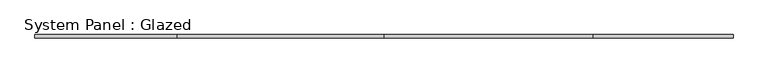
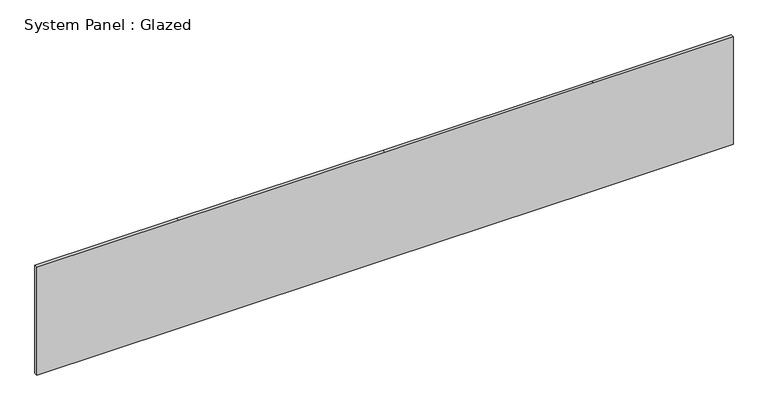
"""IFC4 building model written with IfcOpenShell, lengths in millimetres: plate geometry, System Panel : Glazed."""

import ifcopenshell
import ifcopenshell.guid

model = None  # the IFC model being written
_history = None  # IfcOwnerHistory: only IFC2X3 demands one
_inside = {}  # id of a spatial element -> (the spatial element, [elements in it])
_under = {}  # id of a project, library or spatial element -> (it, [spatial elements below it])
_declared = {}  # id of a project -> (the project, [libraries it declares])
_typed = {}  # id of a type object -> (the type object, [elements of that type])
_made_of = {}  # id of a material, layer set ... -> (it, [elements and type objects made of it])


def new_model(schema):
    """Start an empty IFC model of exactly this schema.

    Asked for "IFC4X3", IfcOpenShell would pick the latest addendum, in which some entities
    have other attributes; the version numbers below select the first issue.
    IFC2X3 requires an IfcOwnerHistory on every rooted entity: one is made here for all.
    """
    global model, _history
    if schema == "IFC4X3":
        model = ifcopenshell.file(schema_version=(4, 3, 0, 0))
    else:
        model = ifcopenshell.file(schema=schema)
    _inside.clear()
    _under.clear()
    _declared.clear()
    _typed.clear()
    _made_of.clear()
    _history = None
    if model.schema == "IFC2X3":
        org = make("IfcOrganization", Name="unknown")
        user = make(
            "IfcPersonAndOrganization",
            ThePerson=make("IfcPerson", FamilyName="unknown"),
            TheOrganization=org,
        )
        app = make(
            "IfcApplication",
            ApplicationDeveloper=org,
            Version="unknown",
            ApplicationFullName="unknown",
            ApplicationIdentifier="unknown",
        )
        _history = make(
            "IfcOwnerHistory",
            OwningUser=user,
            OwningApplication=app,
            ChangeAction="ADDED",
            CreationDate=0,
        )
    return model


def make(cls, **values):
    """One entity of the class cls with the attributes given. An attribute that is None is left unset."""
    return model.create_entity(
        cls, **{name: value for name, value in values.items() if value is not None}
    )


def rooted(cls, **values):
    """An entity with a GlobalId (a new one), such as an element, a storey or a relation."""
    return make(cls, GlobalId=ifcopenshell.guid.new(), OwnerHistory=_history, **values)


def si_unit(unit_type, name, prefix=None):
    """IfcSIUnit, for example si_unit("LENGTHUNIT", "METRE", prefix="MILLI")."""
    return make("IfcSIUnit", UnitType=unit_type, Prefix=prefix, Name=name)


def assignment(units):
    """IfcUnitAssignment: the units of a project."""
    return None if units is None else make("IfcUnitAssignment", Units=units)


def point(xyz):
    """IfcCartesianPoint."""
    return None if xyz is None else make("IfcCartesianPoint", Coordinates=xyz)


def direction(xyz):
    """IfcDirection."""
    return None if xyz is None else make("IfcDirection", DirectionRatios=xyz)


def frame(location, z_axis=None, x_axis=None):
    """IfcAxis2Placement3D, a coordinate frame: its origin and axes. An axis left out is left unset."""
    return make(
        "IfcAxis2Placement3D",
        Location=point(location),
        Axis=direction(z_axis),
        RefDirection=direction(x_axis),
    )


def origin():
    """The frame at (0, 0, 0) with its axes left unset."""
    return frame((0.0, 0.0, 0.0))


def place(relative_to, where):
    """IfcLocalPlacement: puts the frame where relative to a parent placement (None: the world)."""
    return make(
        "IfcLocalPlacement", PlacementRelTo=relative_to, RelativePlacement=where
    )


def context(
    kind, dimensions, precision=None, world=None, true_north=None, identifier=None
):
    """IfcGeometricRepresentationContext, for example the 3D "Model" context."""
    return make(
        "IfcGeometricRepresentationContext",
        ContextIdentifier=identifier,
        ContextType=kind,
        CoordinateSpaceDimension=dimensions,
        Precision=precision,
        WorldCoordinateSystem=world,
        TrueNorth=true_north,
    )


def project(units=None, contexts=None):
    """IfcProject with its units and contexts."""
    return rooted(
        "IfcProject",
        Name="project",
        RepresentationContexts=contexts,
        UnitsInContext=assignment(units),
    )


def spatial(cls, under=None, at=None, **own):
    """A site, building, storey or space (cls), placed at a placement, below another one or the project."""
    s = rooted(cls, ObjectPlacement=at, **own)
    if under is not None:
        _under.setdefault(under.id(), (under, []))[1].append(s)
    return s


def polyline(points):
    """IfcPolyline through the points."""
    return make("IfcPolyline", Points=[point(p) for p in points])


def outline(outer, holes=None, kind="AREA"):
    """IfcArbitraryClosedProfileDef: a profile drawn as a closed curve; with holes, ...WithVoids."""
    if holes is None:
        return make("IfcArbitraryClosedProfileDef", ProfileType=kind, OuterCurve=outer)
    return make(
        "IfcArbitraryProfileDefWithVoids",
        ProfileType=kind,
        OuterCurve=outer,
        InnerCurves=holes,
    )


def extrude(swept, where, along, depth):
    """IfcExtrudedAreaSolid: the profile swept, set in the frame where, extruded along a direction by depth."""
    return make(
        "IfcExtrudedAreaSolid",
        SweptArea=swept,
        Position=where,
        ExtrudedDirection=direction(along),
        Depth=depth,
    )


def shape(context_of_items, identifier, shape_type, items):
    """IfcShapeRepresentation: the items that make up one representation, for example the "Body"."""
    return make(
        "IfcShapeRepresentation",
        ContextOfItems=context_of_items,
        RepresentationIdentifier=identifier,
        RepresentationType=shape_type,
        Items=items,
    )


def source(mapping_origin, context_of_items, identifier, shape_type, items):
    """IfcRepresentationMap: a shape defined once, which mapped items show again and again."""
    return make(
        "IfcRepresentationMap",
        MappingOrigin=mapping_origin,
        MappedRepresentation=shape(context_of_items, identifier, shape_type, items),
    )


def transform(
    local_origin,
    x_axis=None,
    y_axis=None,
    z_axis=None,
    scale=None,
    scale2=None,
    scale3=None,
    uniform=True,
):
    """IfcCartesianTransformationOperator3D, or its non-uniform kind. x_axis, y_axis, z_axis: its Axis1, 2, 3."""
    if uniform:
        return make(
            "IfcCartesianTransformationOperator3D",
            Axis1=direction(x_axis),
            Axis2=direction(y_axis),
            LocalOrigin=point(local_origin),
            Scale=scale,
            Axis3=direction(z_axis),
        )
    return make(
        "IfcCartesianTransformationOperator3DnonUniform",
        Axis1=direction(x_axis),
        Axis2=direction(y_axis),
        LocalOrigin=point(local_origin),
        Scale=scale,
        Axis3=direction(z_axis),
        Scale2=scale2,
        Scale3=scale3,
    )


def mapped(mapping_source, mapping_target):
    """IfcMappedItem: shows the shape of a source again, moved by a transform."""
    return make(
        "IfcMappedItem", MappingSource=mapping_source, MappingTarget=mapping_target
    )


def made_of(thing, what):
    """Note that an element or type object is made of a material, layer set ...; save() writes the relation."""
    if what is not None:
        _made_of.setdefault(what.id(), (what, []))[1].append(thing)
    return thing


def element(
    cls,
    number,
    at=None,
    inside=None,
    cuts=None,
    type_object=None,
    material=None,
    context=None,
    identifier="Body",
    shape_type=None,
    held_by="IfcProductDefinitionShape",
    body=None,
    shapes=None,
    **own,
):
    """One element of the class cls, such as IfcWall. Its Tag is "e" and its number.

    at: its placement. inside: the storey or other place that contains it. cuts: it is an
    opening in that element (IfcRelVoidsElement). A single representation is given by context,
    identifier, shape_type and body (its items); several are given by shapes. held_by: the class
    of the entity that holds the representations. save() writes the other relations.
    """
    e = rooted(cls, Tag="e%d" % number, ObjectPlacement=at, **own)
    if body is not None:
        shapes = [shape(context, identifier, shape_type, body)]
    if shapes is not None:
        e.Representation = make(held_by, Representations=shapes)
    if inside is not None:
        _inside.setdefault(inside.id(), (inside, []))[1].append(e)
    if cuts is not None:
        rooted(
            "IfcRelVoidsElement", RelatingBuildingElement=cuts, RelatedOpeningElement=e
        )
    if type_object is not None:
        _typed.setdefault(type_object.id(), (type_object, []))[1].append(e)
    return made_of(e, material)


def aggregate(whole, parts):
    """IfcRelAggregates: a whole, such as a stair, and the parts it consists of."""
    return rooted("IfcRelAggregates", RelatingObject=whole, RelatedObjects=parts)


def save(model, path):
    """Write the relations noted so far, then the file.

    IfcRelAggregates (storeys below a building ...), IfcRelContainedInSpatialStructure (elements
    in a storey), IfcRelDefinesByType, IfcRelAssociatesMaterial and IfcRelDeclares: one each for
    every whole, place, type object, material and project.
    """
    for whole, parts in _under.values():
        aggregate(whole, parts)
    for where, things in _inside.values():
        rooted(
            "IfcRelContainedInSpatialStructure",
            RelatedElements=things,
            RelatingStructure=where,
        )
    for kind, things in _typed.values():
        rooted("IfcRelDefinesByType", RelatedObjects=things, RelatingType=kind)
    for what, things in _made_of.values():
        rooted("IfcRelAssociatesMaterial", RelatedObjects=things, RelatingMaterial=what)
    for by, libraries in _declared.values():
        rooted("IfcRelDeclares", RelatingContext=by, RelatedDefinitions=libraries)
    model.write(path)


def system_panel_glazed_96e6370a(model_context):
    return source(origin(), model_context, "Body", "SweptSolid", [
        extrude(outline(polyline([(0.0, -2600.0), (0.0, -1540.0), (0.0, 0.0), (0.0, 1560.0), (0.0, 2600.0), (850.0, 2600.0), (850.0, 1560.0), (850.0, 0.0), (850.0, -1540.0), (850.0, -2600.0), (0.0, -2600.0)])), frame((0.0, -12.5, 0.0), z_axis=(0.0, 1.0, 0.0), x_axis=(0.0, 0.0, 1.0)), (0.0, 0.0, 1.0), 25.0),
    ])


if __name__ == "__main__":
    model = new_model("IFC4")
    model_context = context("Model", 3, world=origin())
    ifc_project = project(units=[si_unit("LENGTHUNIT", "METRE", prefix="MILLI")], contexts=[model_context])
    site = spatial("IfcSite", under=ifc_project)
    building = spatial("IfcBuilding", under=site)
    placement = place(None, origin())
    system_panel_glazed_shape = system_panel_glazed_96e6370a(model_context)
    element("IfcPlate", 1, ObjectType="System Panel : Glazed", at=placement, inside=building, context=model_context, shape_type="MappedRepresentation", body=[
        mapped(system_panel_glazed_shape, transform((0.0, 0.0, 0.0), x_axis=(1.0, 0.0, 0.0), y_axis=(0.0, 1.0, 0.0), z_axis=(0.0, 0.0, 1.0))),
    ])
    save(model, "model.ifc")
